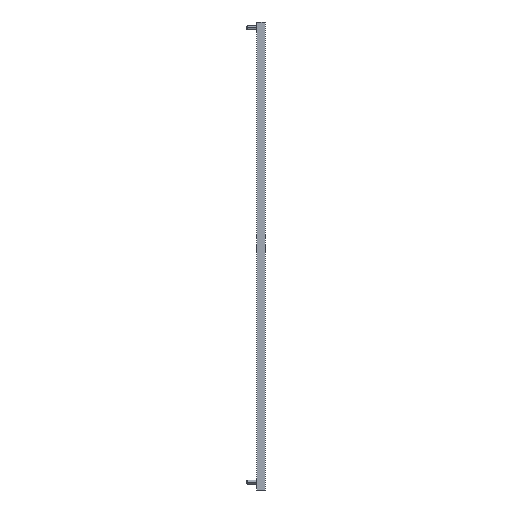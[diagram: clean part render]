
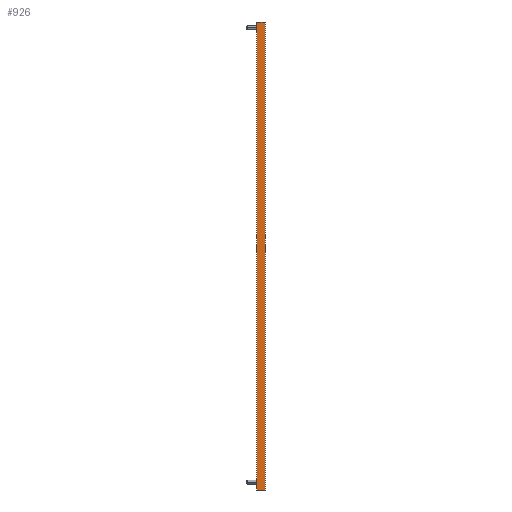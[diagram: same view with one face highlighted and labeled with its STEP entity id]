
A CAD part, left-side view. The second image highlights one B-rep face of the part: STEP entity #926.
In plain terms, the highlighted planar face has unit normal (-1, 0, 0).
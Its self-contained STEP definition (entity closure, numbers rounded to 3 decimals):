
#21 = EDGE_CURVE ( 'NONE', #2362, #2774, #2306, .T. ) ;
#61 = CARTESIAN_POINT ( 'NONE',  ( -8., 0., 679. ) ) ;
#142 = FACE_OUTER_BOUND ( 'NONE', #2604, .T. ) ;
#145 = VECTOR ( 'NONE', #1559, 1000. ) ;
#164 = LINE ( 'NONE', #1142, #531 ) ;
#220 = EDGE_CURVE ( 'NONE', #1793, #1259, #164, .T. ) ;
#327 = ORIENTED_EDGE ( 'NONE', *, *, #1652, .T. ) ;
#332 = DIRECTION ( 'NONE',  ( 0., 0., 1. ) ) ;
#367 = ORIENTED_EDGE ( 'NONE', *, *, #220, .T. ) ;
#412 = CARTESIAN_POINT ( 'NONE',  ( -8., 9.3, 679. ) ) ;
#531 = VECTOR ( 'NONE', #2937, 1000. ) ;
#567 = CARTESIAN_POINT ( 'NONE',  ( -8., 0., 679. ) ) ;
#626 = CARTESIAN_POINT ( 'NONE',  ( -8., 3.2, 679. ) ) ;
#698 = VERTEX_POINT ( 'NONE', #1743 ) ;
#748 = VECTOR ( 'NONE', #3228, 1000. ) ;
#769 = CARTESIAN_POINT ( 'NONE',  ( -8., 12.5, 679. ) ) ;
#801 = VERTEX_POINT ( 'NONE', #1320 ) ;
#846 = ORIENTED_EDGE ( 'NONE', *, *, #1984, .T. ) ;
#901 = PLANE ( 'NONE',  #2761 ) ;
#926 = ADVANCED_FACE ( 'NONE', ( #142 ), #901, .T. ) ;
#980 = ORIENTED_EDGE ( 'NONE', *, *, #3013, .T. ) ;
#1031 = LINE ( 'NONE', #567, #145 ) ;
#1117 = CARTESIAN_POINT ( 'NONE',  ( -8., 3.2, 0. ) ) ;
#1142 = CARTESIAN_POINT ( 'NONE',  ( -8., 0., 0. ) ) ;
#1259 = VERTEX_POINT ( 'NONE', #2071 ) ;
#1267 = EDGE_CURVE ( 'NONE', #801, #3188, #2561, .T. ) ;
#1287 = CARTESIAN_POINT ( 'NONE',  ( -8., 12.5, 679. ) ) ;
#1310 = DIRECTION ( 'NONE',  ( 0., 0., 1. ) ) ;
#1320 = CARTESIAN_POINT ( 'NONE',  ( -8., 12.5, 0. ) ) ;
#1374 = ORIENTED_EDGE ( 'NONE', *, *, #21, .T. ) ;
#1376 = VECTOR ( 'NONE', #2537, 1000. ) ;
#1450 = EDGE_CURVE ( 'NONE', #3188, #2774, #2210, .T. ) ;
#1485 = LINE ( 'NONE', #2511, #1376 ) ;
#1559 = DIRECTION ( 'NONE',  ( 0., 1., 0. ) ) ;
#1595 = ORIENTED_EDGE ( 'NONE', *, *, #1450, .F. ) ;
#1652 = EDGE_CURVE ( 'NONE', #801, #698, #2156, .T. ) ;
#1658 = DIRECTION ( 'NONE',  ( 0., 0., 1. ) ) ;
#1743 = CARTESIAN_POINT ( 'NONE',  ( -8., 9.3, 0. ) ) ;
#1786 = VECTOR ( 'NONE', #1803, 1000. ) ;
#1793 = VERTEX_POINT ( 'NONE', #1117 ) ;
#1803 = DIRECTION ( 'NONE',  ( 0., 1., 0. ) ) ;
#1890 = CARTESIAN_POINT ( 'NONE',  ( -8., 0., 679. ) ) ;
#1909 = DIRECTION ( 'NONE',  ( -1., 0., 0. ) ) ;
#1984 = EDGE_CURVE ( 'NONE', #2893, #2362, #1031, .T. ) ;
#2071 = CARTESIAN_POINT ( 'NONE',  ( -8., 0., 0. ) ) ;
#2156 = LINE ( 'NONE', #2688, #3227 ) ;
#2171 = VECTOR ( 'NONE', #332, 1000. ) ;
#2210 = LINE ( 'NONE', #1287, #748 ) ;
#2306 = LINE ( 'NONE', #61, #1786 ) ;
#2362 = VERTEX_POINT ( 'NONE', #626 ) ;
#2491 = EDGE_CURVE ( 'NONE', #698, #1793, #1485, .T. ) ;
#2507 = CARTESIAN_POINT ( 'NONE',  ( -8., 0., 679. ) ) ;
#2511 = CARTESIAN_POINT ( 'NONE',  ( -8., 0., 0. ) ) ;
#2537 = DIRECTION ( 'NONE',  ( 0., -1., 0. ) ) ;
#2561 = LINE ( 'NONE', #769, #2171 ) ;
#2604 = EDGE_LOOP ( 'NONE', ( #2879, #327, #3118, #367, #980, #846, #1374, #1595 ) ) ;
#2631 = CARTESIAN_POINT ( 'NONE',  ( -8., 0., 679. ) ) ;
#2647 = CARTESIAN_POINT ( 'NONE',  ( -8., 12.5, 679. ) ) ;
#2688 = CARTESIAN_POINT ( 'NONE',  ( -8., 0., 0. ) ) ;
#2761 = AXIS2_PLACEMENT_3D ( 'NONE', #1890, #1909, #1658 ) ;
#2774 = VERTEX_POINT ( 'NONE', #412 ) ;
#2836 = LINE ( 'NONE', #2631, #2931 ) ;
#2879 = ORIENTED_EDGE ( 'NONE', *, *, #1267, .F. ) ;
#2893 = VERTEX_POINT ( 'NONE', #2507 ) ;
#2931 = VECTOR ( 'NONE', #1310, 1000. ) ;
#2937 = DIRECTION ( 'NONE',  ( 0., -1., 0. ) ) ;
#3013 = EDGE_CURVE ( 'NONE', #1259, #2893, #2836, .T. ) ;
#3118 = ORIENTED_EDGE ( 'NONE', *, *, #2491, .T. ) ;
#3188 = VERTEX_POINT ( 'NONE', #2647 ) ;
#3208 = DIRECTION ( 'NONE',  ( 0., -1., 0. ) ) ;
#3227 = VECTOR ( 'NONE', #3208, 1000. ) ;
#3228 = DIRECTION ( 'NONE',  ( 0., -1., 0. ) ) ;
